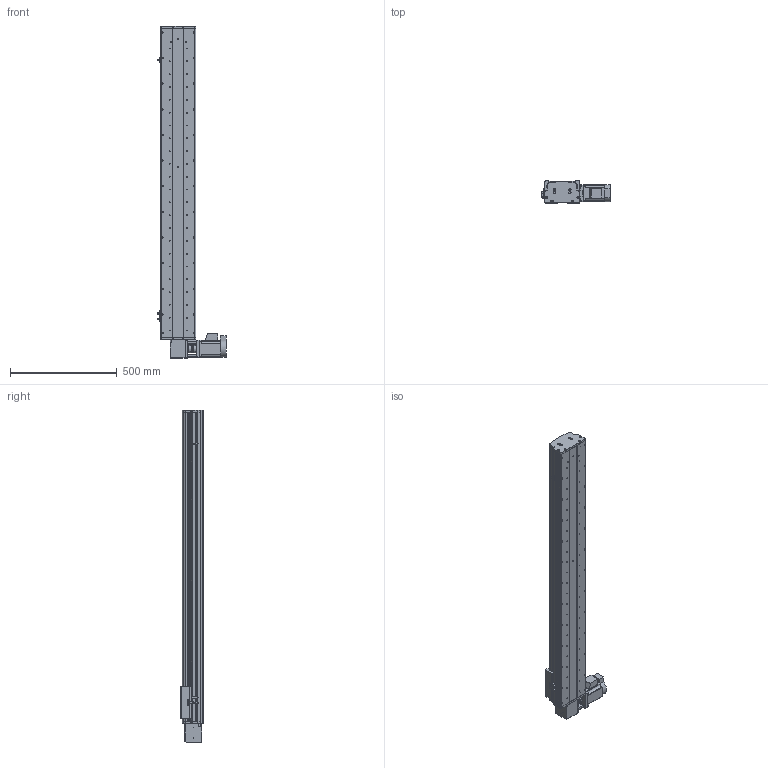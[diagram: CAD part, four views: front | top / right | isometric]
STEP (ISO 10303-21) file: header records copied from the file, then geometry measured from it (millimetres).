
FILE_DESCRIPTION (( 'STEP AP214' ), '1' );
FILE_NAME ('KSD165B-S1200-MRT-CM.STEP', '2017-08-14T06:04:49', ( '微软用户' ), ( '微软中国' ), 'SwSTEP 2.0', 'SolidWorks 2014', '' );
FILE_SCHEMA (( 'AUTOMOTIVE_DESIGN' ));
Length unit declared in the file: millimetre
Products named in the file (16): KSD165模组-同步带防尘盖1-1200行程; KSD165模组同步带底板-1200行程; 拸秶雄ん750W侜督萇儂; 165宽安装板同步带带电机座750W; 165宽马达安装板同步带右; C39ㄜ1419WP; U倰嫖萇假蚾璃; U倰嫖萇EEㄜSX672; 覜茼え68遵圉猾敕; KSD165模组-同步带-防撞垫2; KSD165模组同步带-防撞垫1; KSD165耀郪-ヶ傷啣1-肮祭湍; KSD165模组-后端板1-同步带; 130宽马达安装板1-带电机座750W（1）; KSD165模组-同步带滑动座-最新版; KSD165B-S1200-MRT-CM
Assembly tree (19 placements, depth 2):
  KSD165B-S1200-MRT-CM
    KSD165模组-同步带滑动座-最新版
    130宽马达安装板1-带电机座750W（1）
    KSD165模组-后端板1-同步带
    KSD165耀郪-ヶ傷啣1-肮祭湍
    KSD165模组同步带-防撞垫1
    KSD165模组-同步带-防撞垫2
    覜茼え68遵圉猾敕
    U倰嫖萇EEㄜSX672  x3
    U倰嫖萇假蚾璃  x3
    C39ㄜ1419WP
    165宽马达安装板同步带右
    165宽安装板同步带带电机座750W
    拸秶雄ん750W侜督萇儂
    KSD165模组同步带底板-1200行程
    KSD165模组-同步带防尘盖1-1200行程
Bounding box: 321.2 x 104 x 1554 mm (x, y, z)
Volume: 8786175.4 mm3; surface area: 1994395.3 mm2
Topology: 20 solids, 20 shells, 1546 faces, 4314 edges, 2797 vertices
Faces by surface type: cylinder 867, plane 585, cone 94
Entity records: 49751 total; most frequent: CARTESIAN_POINT 10433, DIRECTION 7708, ORIENTED_EDGE 7280, EDGE_CURVE 3640, AXIS2_PLACEMENT_3D 2944, VERTEX_POINT 2389, LINE 1820, VECTOR 1820
